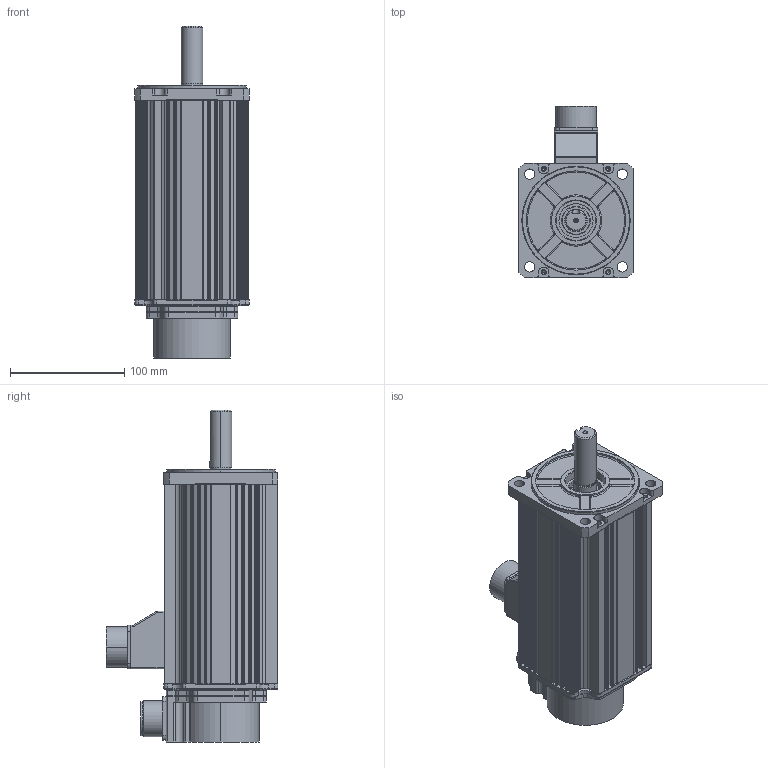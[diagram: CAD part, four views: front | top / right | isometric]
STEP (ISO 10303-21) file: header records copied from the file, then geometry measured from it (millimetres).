
FILE_DESCRIPTION (( 'STEP AP214' ), '1' );
FILE_NAME ('KANS-25B¡à1N2.STEP', '2026-09-12T00:22:43', ( '' ), ( '' ), 'SwSTEP 2.0', 'SolidWorks 2023', '' );
FILE_SCHEMA (( 'AUTOMOTIVE_DESIGN' ));
Length unit declared in the file: millimetre
Products named in the file (10): 10060024(ENCODER COVER ADAPTOR,□100,□120); KANS-25B□1N2; □100-175mm; MS3102A 20-29P; MS3102A 20_표준; Ø19-KEY6X42; 10050579 CONNECTOR BOX_MS20; □100 FLANGE; 1006002202 ENCODER COVER; □100 BRACKET_BR
Assembly tree (9 placements, depth 2):
  KANS-25B□1N2
    □100-175mm
    □100 FLANGE
    □100 BRACKET_BR
    10060024(ENCODER COVER ADAPTOR,□100,□120)
    1006002202 ENCODER COVER
    MS3102A 20-29P
    10050579 CONNECTOR BOX_MS20
    MS3102A 20_표준
    Ø19-KEY6X42
Bounding box: 100 x 150.55 x 291 mm (x, y, z)
Volume: 513445.8 mm3; surface area: 297232.7 mm2
Topology: 9 solids, 9 shells, 1787 faces, 4924 edges, 3182 vertices
Faces by surface type: plane 794, cylinder 788, torus 74, cone 64, bspline 35, sphere 32
Entity records: 58629 total; most frequent: CARTESIAN_POINT 11693, DIRECTION 10107, ORIENTED_EDGE 9728, EDGE_CURVE 4864, AXIS2_PLACEMENT_3D 3614, VERTEX_POINT 3174, VECTOR 2879, LINE 2879
